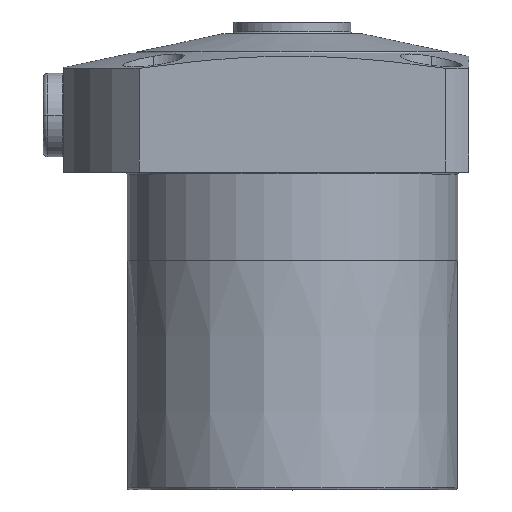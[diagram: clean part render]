
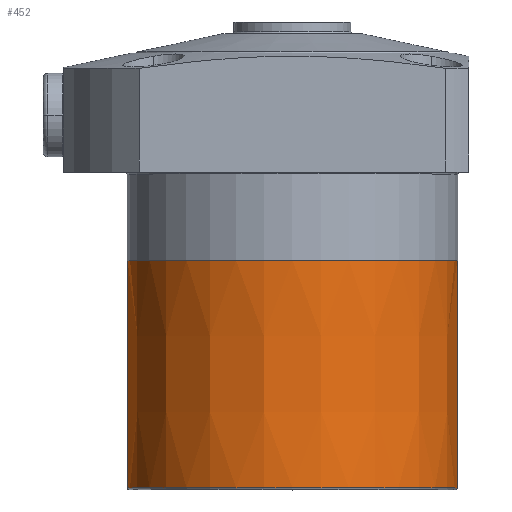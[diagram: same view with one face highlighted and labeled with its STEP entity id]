
A CAD part, top view. The second image highlights one B-rep face of the part: STEP entity #452.
In plain terms, the highlighted conical face has half-angle 0 degrees and reference radius 37.4 mm.
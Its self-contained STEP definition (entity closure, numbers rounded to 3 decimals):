
#379=CONICAL_SURFACE('',#3416,37.4,0.);
#452=ADVANCED_FACE('',(#732),#379,.T.);
#732=FACE_OUTER_BOUND('',#906,.T.);
#906=EDGE_LOOP('',(#1593,#1594,#1595,#1596));
#1180=LINE('',#5293,#1346);
#1181=LINE('',#5297,#1347);
#1346=VECTOR('',#4041,1.);
#1347=VECTOR('',#4044,1.);
#1593=ORIENTED_EDGE('',*,*,#2757,.F.);
#1594=ORIENTED_EDGE('',*,*,#2758,.T.);
#1595=ORIENTED_EDGE('',*,*,#2759,.T.);
#1596=ORIENTED_EDGE('',*,*,#2760,.F.);
#2463=VERTEX_POINT('',#5291);
#2464=VERTEX_POINT('',#5292);
#2465=VERTEX_POINT('',#5294);
#2466=VERTEX_POINT('',#5296);
#2757=EDGE_CURVE('',#2463,#2464,#3125,.T.);
#2758=EDGE_CURVE('',#2463,#2465,#1180,.T.);
#2759=EDGE_CURVE('',#2465,#2466,#3126,.T.);
#2760=EDGE_CURVE('',#2464,#2466,#1181,.T.);
#3125=CIRCLE('',#3414,37.4);
#3126=CIRCLE('',#3415,37.4);
#3414=AXIS2_PLACEMENT_3D('',#5290,#4039,#4040);
#3415=AXIS2_PLACEMENT_3D('',#5295,#4042,#4043);
#3416=AXIS2_PLACEMENT_3D('',#5298,#4045,#4046);
#4039=DIRECTION('',(0.,1.,0.));
#4040=DIRECTION('',(-1.,0.,0.));
#4041=DIRECTION('',(0.,-1.,0.));
#4042=DIRECTION('',(0.,1.,0.));
#4043=DIRECTION('',(-1.,0.,0.));
#4044=DIRECTION('',(0.,-1.,0.));
#4045=DIRECTION('',(0.,-1.,0.));
#4046=DIRECTION('',(-1.,0.,0.));
#5290=CARTESIAN_POINT('',(0.,53.208,0.));
#5291=CARTESIAN_POINT('',(-37.4,53.208,0.));
#5292=CARTESIAN_POINT('',(37.4,53.208,0.));
#5293=CARTESIAN_POINT('',(-37.4,53.208,0.));
#5294=CARTESIAN_POINT('',(-37.4,1.608,0.));
#5295=CARTESIAN_POINT('',(0.,1.608,0.));
#5296=CARTESIAN_POINT('',(37.4,1.608,0.));
#5297=CARTESIAN_POINT('',(37.4,53.208,0.));
#5298=CARTESIAN_POINT('',(0.,53.208,0.));
